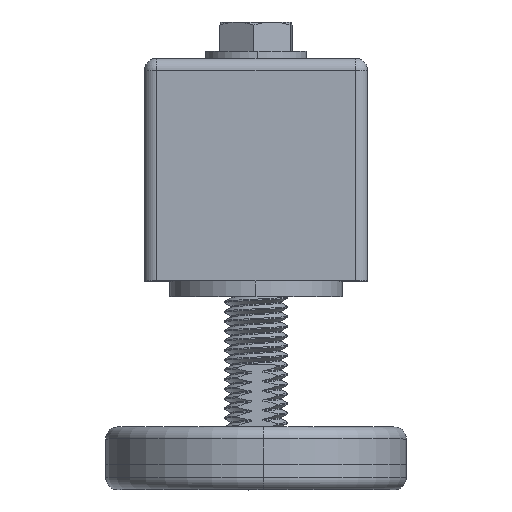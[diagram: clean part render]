
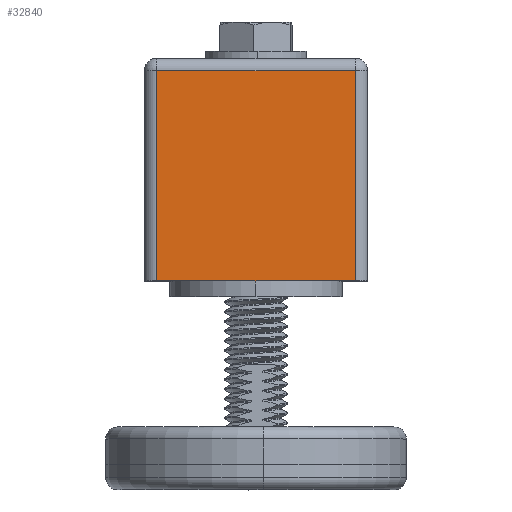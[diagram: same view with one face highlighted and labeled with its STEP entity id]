
A CAD part, top view. The second image highlights one B-rep face of the part: STEP entity #32840.
In plain terms, the highlighted planar face has unit normal (0, 0, 1).
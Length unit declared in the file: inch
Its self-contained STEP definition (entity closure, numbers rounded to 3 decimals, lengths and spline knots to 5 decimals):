
#1221 = CARTESIAN_POINT ( 'NONE',  ( 0.89, -1.775, 0. ) ) ;
#2394 = VERTEX_POINT ( 'NONE', #18555 ) ;
#2898 = LINE ( 'NONE', #61364, #55974 ) ;
#4799 = AXIS2_PLACEMENT_3D ( 'NONE', #28213, #18130, #54107 ) ;
#8700 = LINE ( 'NONE', #54548, #34415 ) ;
#13261 = FACE_OUTER_BOUND ( 'NONE', #43825, .T. ) ;
#16203 = ORIENTED_EDGE ( 'NONE', *, *, #19141, .T. ) ;
#17820 = ORIENTED_EDGE ( 'NONE', *, *, #63174, .F. ) ;
#18130 = DIRECTION ( 'NONE',  ( 0., 0., -1. ) ) ;
#18555 = CARTESIAN_POINT ( 'NONE',  ( 0.79, -1.775, 0. ) ) ;
#18575 = DIRECTION ( 'NONE',  ( 0., 1., 0. ) ) ;
#18759 = EDGE_CURVE ( 'NONE', #40510, #29036, #39276, .T. ) ;
#18814 = VERTEX_POINT ( 'NONE', #22615 ) ;
#19141 = EDGE_CURVE ( 'NONE', #2394, #40510, #8700, .T. ) ;
#22615 = CARTESIAN_POINT ( 'NONE',  ( -0.79, -1.775, 0. ) ) ;
#27606 = LINE ( 'NONE', #1221, #29260 ) ;
#28213 = CARTESIAN_POINT ( 'NONE',  ( 0.89, 0., 0. ) ) ;
#29036 = VERTEX_POINT ( 'NONE', #64385 ) ;
#29260 = VECTOR ( 'NONE', #37195, 39.37008 ) ;
#32840 = ADVANCED_FACE ( 'NONE', ( #13261 ), #33425, .F. ) ;
#33425 = PLANE ( 'NONE',  #4799 ) ;
#34415 = VECTOR ( 'NONE', #18575, 39.37008 ) ;
#37195 = DIRECTION ( 'NONE',  ( -1., 0., 0. ) ) ;
#37643 = VECTOR ( 'NONE', #53455, 39.37008 ) ;
#39276 = LINE ( 'NONE', #58596, #37643 ) ;
#40510 = VERTEX_POINT ( 'NONE', #61590 ) ;
#43496 = ORIENTED_EDGE ( 'NONE', *, *, #57178, .T. ) ;
#43825 = EDGE_LOOP ( 'NONE', ( #17820, #16203, #53979, #43496 ) ) ;
#53455 = DIRECTION ( 'NONE',  ( -1., 0., 0. ) ) ;
#53979 = ORIENTED_EDGE ( 'NONE', *, *, #18759, .T. ) ;
#54107 = DIRECTION ( 'NONE',  ( -1., 0., 0. ) ) ;
#54548 = CARTESIAN_POINT ( 'NONE',  ( 0.79, 0., 0. ) ) ;
#55974 = VECTOR ( 'NONE', #56186, 39.37008 ) ;
#56186 = DIRECTION ( 'NONE',  ( 0., -1., 0. ) ) ;
#57178 = EDGE_CURVE ( 'NONE', #29036, #18814, #2898, .T. ) ;
#58596 = CARTESIAN_POINT ( 'NONE',  ( 0.89, -0.1, 0. ) ) ;
#61364 = CARTESIAN_POINT ( 'NONE',  ( -0.79, 0., 0. ) ) ;
#61590 = CARTESIAN_POINT ( 'NONE',  ( 0.79, -0.1, 0. ) ) ;
#63174 = EDGE_CURVE ( 'NONE', #2394, #18814, #27606, .T. ) ;
#64385 = CARTESIAN_POINT ( 'NONE',  ( -0.79, -0.1, 0. ) ) ;
